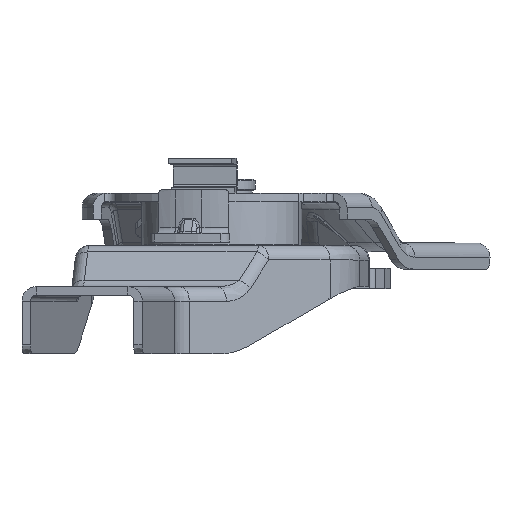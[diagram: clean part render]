
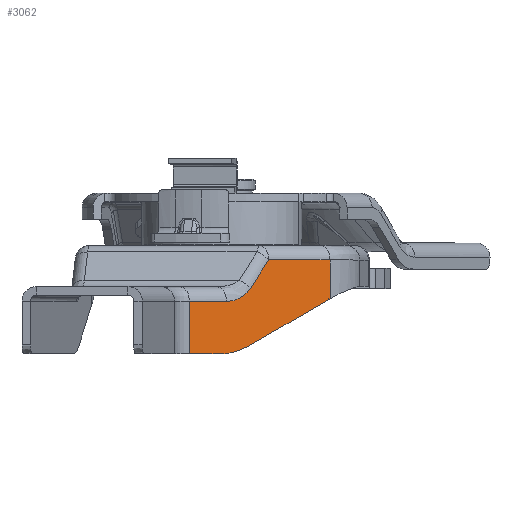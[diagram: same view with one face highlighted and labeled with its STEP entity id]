
A CAD part, top view. The second image highlights one B-rep face of the part: STEP entity #3062.
In plain terms, the highlighted planar face has unit normal (0.647, 0.001, 0.763).
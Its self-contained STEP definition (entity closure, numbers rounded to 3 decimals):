
#3037=AXIS2_PLACEMENT_3D('Plane Axis2P3D',#3034,#3035,#3036) ;
#1110=CARTESIAN_POINT('Vertex',(658.101,-539.818,553.762)) ;
#1209=CARTESIAN_POINT('Vertex',(658.103,-521.815,553.748)) ;
#2074=CARTESIAN_POINT('Line Origine',(658.103,-521.039,553.748)) ;
#2091=CARTESIAN_POINT('Line Origine',(663.405,-539.818,549.265)) ;
#2095=CARTESIAN_POINT('Vertex',(668.71,-539.818,544.767)) ;
#2131=CARTESIAN_POINT('Control Point',(678.577,-537.136,536.401)) ;
#2132=CARTESIAN_POINT('Control Point',(677.105,-537.999,537.649)) ;
#2133=CARTESIAN_POINT('Control Point',(675.572,-538.682,538.949)) ;
#2134=CARTESIAN_POINT('Control Point',(674.,-539.192,540.282)) ;
#2135=CARTESIAN_POINT('Control Point',(671.99,-539.621,541.987)) ;
#2136=CARTESIAN_POINT('Control Point',(669.963,-539.784,543.705)) ;
#2137=CARTESIAN_POINT('Control Point',(669.546,-539.807,544.059)) ;
#2138=CARTESIAN_POINT('Control Point',(669.128,-539.818,544.413)) ;
#2139=CARTESIAN_POINT('Control Point',(668.71,-539.818,544.767)) ;
#2140=CARTESIAN_POINT('Vertex',(678.577,-537.136,536.401)) ;
#2173=CARTESIAN_POINT('Line Origine',(692.522,-528.968,524.573)) ;
#2177=CARTESIAN_POINT('Vertex',(706.468,-520.799,512.745)) ;
#2291=CARTESIAN_POINT('Vertex',(670.858,-521.816,542.935)) ;
#2295=CARTESIAN_POINT('Control Point',(670.858,-521.816,542.935)) ;
#2296=CARTESIAN_POINT('Control Point',(671.692,-521.816,542.228)) ;
#2297=CARTESIAN_POINT('Control Point',(672.527,-521.726,541.52)) ;
#2298=CARTESIAN_POINT('Control Point',(673.355,-521.547,540.818)) ;
#2299=CARTESIAN_POINT('Control Point',(675.131,-520.957,539.312)) ;
#2300=CARTESIAN_POINT('Control Point',(676.806,-519.903,537.891)) ;
#2301=CARTESIAN_POINT('Control Point',(677.668,-519.186,537.159)) ;
#2302=CARTESIAN_POINT('Control Point',(678.46,-518.307,536.488)) ;
#2303=CARTESIAN_POINT('Control Point',(679.129,-517.26,535.919)) ;
#2304=CARTESIAN_POINT('Vertex',(679.129,-517.26,535.919)) ;
#2330=CARTESIAN_POINT('Line Origine',(655.093,-521.815,556.301)) ;
#2354=CARTESIAN_POINT('Line Origine',(675.025,-523.677,539.404)) ;
#2358=CARTESIAN_POINT('Vertex',(685.367,-507.509,530.625)) ;
#3034=CARTESIAN_POINT('Axis2P3D Location',(714.719,-419.63,505.684)) ;
#3039=CARTESIAN_POINT('Line Origine',(706.462,-514.154,512.745)) ;
#3043=CARTESIAN_POINT('Vertex',(706.457,-507.509,512.745)) ;
#3046=CARTESIAN_POINT('Line Origine',(695.912,-507.509,521.685)) ;
#2075=DIRECTION('Vector Direction',(0.,1.,-0.001)) ;
#2092=DIRECTION('Vector Direction',(0.763,0.,-0.647)) ;
#2174=DIRECTION('Vector Direction',(0.696,0.408,-0.591)) ;
#2331=DIRECTION('Vector Direction',(-0.763,0.,0.647)) ;
#2355=DIRECTION('Vector Direction',(-0.49,-0.766,0.416)) ;
#3035=DIRECTION('Axis2P3D Direction',(0.647,0.,0.763)) ;
#3036=DIRECTION('Axis2P3D XDirection',(0.001,-1.,0.)) ;
#3040=DIRECTION('Vector Direction',(-0.001,1.,0.)) ;
#3047=DIRECTION('Vector Direction',(0.763,0.,-0.647)) ;
#2076=VECTOR('Line Direction',#2075,1.) ;
#2093=VECTOR('Line Direction',#2092,1.) ;
#2175=VECTOR('Line Direction',#2174,1.) ;
#2332=VECTOR('Line Direction',#2331,1.) ;
#2356=VECTOR('Line Direction',#2355,1.) ;
#3041=VECTOR('Line Direction',#3040,1.) ;
#3048=VECTOR('Line Direction',#3047,1.) ;
#3052=ORIENTED_EDGE('',*,*,#2078,.T.) ;
#3053=ORIENTED_EDGE('',*,*,#2097,.T.) ;
#3054=ORIENTED_EDGE('',*,*,#2142,.T.) ;
#3055=ORIENTED_EDGE('',*,*,#2179,.T.) ;
#3056=ORIENTED_EDGE('',*,*,#3045,.T.) ;
#3057=ORIENTED_EDGE('',*,*,#3050,.F.) ;
#3058=ORIENTED_EDGE('',*,*,#2360,.F.) ;
#3059=ORIENTED_EDGE('',*,*,#2306,.F.) ;
#3060=ORIENTED_EDGE('',*,*,#2334,.F.) ;
#3062=ADVANCED_FACE('\X2\96F64EF651E04F554F53\X0\',(#3061),#3038,.T.) ;
#2130=B_SPLINE_CURVE_WITH_KNOTS('',5,(#2131,#2132,#2133,#2134,#2135,#2136,#2137,#2138,#2139),.UNSPECIFIED.,.F.,.U.,(6,3,6),(0.,10.59,13.334),.UNSPECIFIED.) ;
#2294=B_SPLINE_CURVE_WITH_KNOTS('',5,(#2295,#2296,#2297,#2298,#2299,#2300,#2301,#2302,#2303),.UNSPECIFIED.,.F.,.U.,(6,3,6),(35.362,39.965,45.375),.UNSPECIFIED.) ;
#2078=EDGE_CURVE('',#1210,#1111,#2077,.F.) ;
#2097=EDGE_CURVE('',#1111,#2096,#2094,.T.) ;
#2142=EDGE_CURVE('',#2096,#2141,#2130,.F.) ;
#2179=EDGE_CURVE('',#2141,#2178,#2176,.T.) ;
#2306=EDGE_CURVE('',#2292,#2305,#2294,.T.) ;
#2334=EDGE_CURVE('',#1210,#2292,#2333,.F.) ;
#2360=EDGE_CURVE('',#2305,#2359,#2357,.F.) ;
#3045=EDGE_CURVE('',#2178,#3044,#3042,.T.) ;
#3050=EDGE_CURVE('',#2359,#3044,#3049,.T.) ;
#3051=EDGE_LOOP('',(#3052,#3053,#3054,#3055,#3056,#3057,#3058,#3059,#3060)) ;
#3061=FACE_OUTER_BOUND('',#3051,.T.) ;
#2077=LINE('Line',#2074,#2076) ;
#2094=LINE('Line',#2091,#2093) ;
#2176=LINE('Line',#2173,#2175) ;
#2333=LINE('Line',#2330,#2332) ;
#2357=LINE('Line',#2354,#2356) ;
#3042=LINE('Line',#3039,#3041) ;
#3049=LINE('Line',#3046,#3048) ;
#3038=PLANE('Plane',#3037) ;
#1111=VERTEX_POINT('',#1110) ;
#1210=VERTEX_POINT('',#1209) ;
#2096=VERTEX_POINT('',#2095) ;
#2141=VERTEX_POINT('',#2140) ;
#2178=VERTEX_POINT('',#2177) ;
#2292=VERTEX_POINT('',#2291) ;
#2305=VERTEX_POINT('',#2304) ;
#2359=VERTEX_POINT('',#2358) ;
#3044=VERTEX_POINT('',#3043) ;
